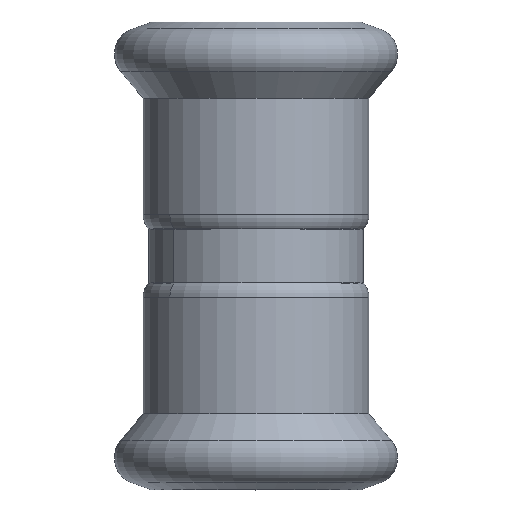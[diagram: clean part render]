
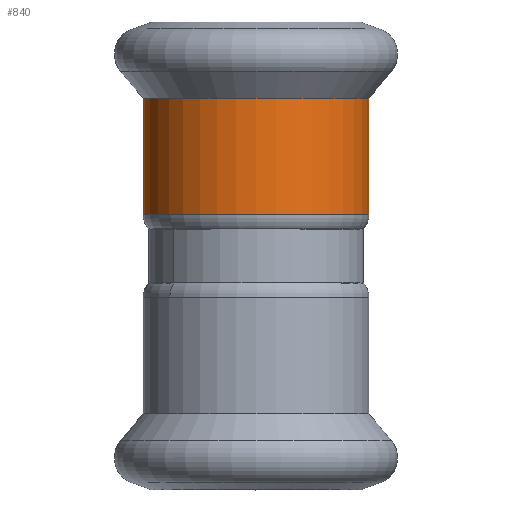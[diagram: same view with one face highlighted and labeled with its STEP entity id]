
A CAD part, top view. The second image highlights one B-rep face of the part: STEP entity #840.
In plain terms, the highlighted cylindrical face has radius 12.6 mm (diameter 25.2 mm), a partial arc.
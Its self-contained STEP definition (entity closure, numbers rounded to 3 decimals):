
#430=CARTESIAN_POINT('',(38.601,36.977,0.));
#440=DIRECTION('',(0.,1.,0.));
#450=DIRECTION('',(1.,0.,0.));
#460=AXIS2_PLACEMENT_3D('',#430,#440,#450);
#470=CYLINDRICAL_SURFACE('',#460,12.6);
#480=CARTESIAN_POINT('',(26.001,36.977,
0.));
#490=DIRECTION('',(0.,1.,0.));
#500=VECTOR('',#490,1.);
#510=LINE('',#480,#500);
#520=CARTESIAN_POINT('',(26.001,30.477,
0.));
#530=VERTEX_POINT('',#520);
#540=CARTESIAN_POINT('',(26.001,43.477,
0.));
#550=VERTEX_POINT('',#540);
#560=EDGE_CURVE('',#530,#550,#510,.T.);
#570=ORIENTED_EDGE('',*,*,#560,.F.);
#580=CARTESIAN_POINT('',(38.601,43.477,0.));
#590=DIRECTION('',(0.,1.,0.));
#600=DIRECTION('',(1.,0.,0.));
#610=AXIS2_PLACEMENT_3D('',#580,#590,#600);
#620=CIRCLE('',#610,12.6);
#630=CARTESIAN_POINT('',(51.201,43.477,0.));
#640=VERTEX_POINT('644870-1530253459-180373220723-0 1060928',#630);
#650=EDGE_CURVE('644870-1530253459-180373220723-0 1060923',#550,#640,
#620,.T.);
#660=ORIENTED_EDGE('',*,*,#650,.F.);
#670=CARTESIAN_POINT('',(51.201,36.977,0.));
#680=DIRECTION('',(0.,1.,0.));
#690=VECTOR('',#680,1.);
#700=LINE('',#670,#690);
#710=CARTESIAN_POINT('',(51.201,30.477,0.));
#720=VERTEX_POINT('644870-1530253459-180373220723-0 1060948',#710);
#730=EDGE_CURVE('',#720,#640,#700,.T.);
#740=ORIENTED_EDGE('',*,*,#730,.T.);
#750=CARTESIAN_POINT('',(38.601,30.477,0.));
#760=DIRECTION('',(0.,1.,0.));
#770=DIRECTION('',(1.,0.,0.));
#780=AXIS2_PLACEMENT_3D('',#750,#760,#770);
#790=CIRCLE('',#780,12.6);
#800=EDGE_CURVE('644870-1530253459-180373220723-0 1060943',#530,#720,
#790,.T.);
#810=ORIENTED_EDGE('',*,*,#800,.T.);
#820=EDGE_LOOP('',(#810,#740,#660,#570));
#830=FACE_OUTER_BOUND('',#820,.T.);
#840=ADVANCED_FACE('644870-1530253459-180373220723-0 1060935',(#830),
#470,.T.);
